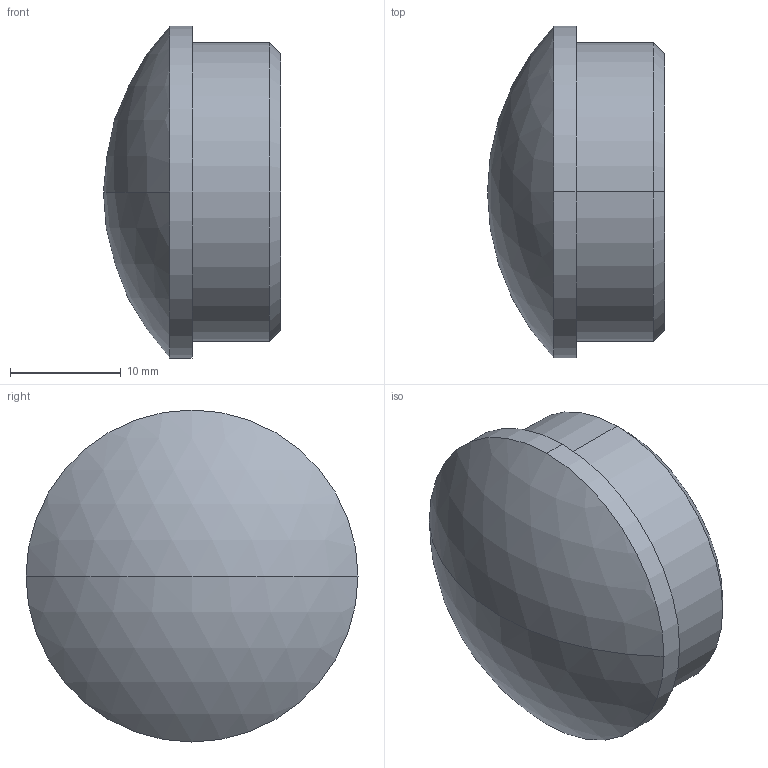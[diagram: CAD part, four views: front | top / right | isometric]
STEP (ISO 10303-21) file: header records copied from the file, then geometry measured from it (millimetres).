
FILE_DESCRIPTION (( 'STEP AP203' ), '1' );
FILE_NAME ('3D_GR1392_DN30x1.5_18380150.STEP', '2024-09-21T10:15:04', ( '' ), ( '' ), 'SwSTEP 2.0', 'SolidWorks 2024', '' );
FILE_SCHEMA (( 'CONFIG_CONTROL_DESIGN' ));
Length unit declared in the file: millimetre
Products named in the file (1): 3D_GR1392_DN30x1.5_18380150
Bounding box: 16 x 30 x 30 mm (x, y, z)
Volume: 8186.5 mm3; surface area: 2342.9 mm2
Topology: 1 solids, 1 shells, 10 faces, 20 edges, 13 vertices
Faces by surface type: cylinder 4, cone 2, sphere 2, plane 2
Entity records: 347 total; most frequent: DIRECTION 56, CARTESIAN_POINT 44, ORIENTED_EDGE 40, AXIS2_PLACEMENT_3D 25, EDGE_CURVE 20, CIRCLE 14, VERTEX_POINT 13, EDGE_LOOP 11
